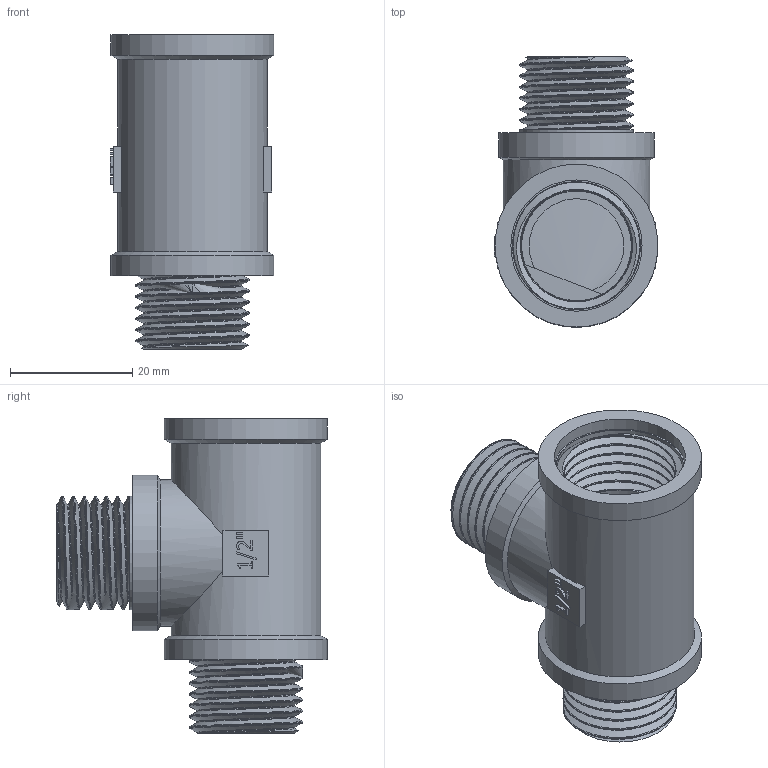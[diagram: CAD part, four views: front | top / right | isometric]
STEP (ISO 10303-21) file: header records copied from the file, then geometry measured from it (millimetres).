
FILE_DESCRIPTION(/* description */ (''),/* implementation_level */ '2;1');
FILE_NAME(/* name */ 'C:\Users\Doom\Desktop\Фадотех\Резьба\T21 18.03.2020\T21 18.03.2020.stp',/* time_stamp */ '2022-01-20T01:17:48+02:00',/* author */ ('Doom'),/* organization */ (''),/* preprocessor_version */ 'ST-DEVELOPER v18',/* originating_system */ 'Autodesk Inventor 2020',/* authorisation */ '');
FILE_SCHEMA (('AUTOMOTIVE_DESIGN { 1 0 10303 214 3 1 1 }'));
Length unit declared in the file: millimetre
Products named in the file (1): T21 18.03.2020
Bounding box: 26.85 x 44.35 x 51.5 mm (x, y, z)
Volume: 13417 mm3; surface area: 15955.3 mm2
Topology: 4 solids, 4 shells, 155 faces, 423 edges, 285 vertices
Faces by surface type: plane 74, cylinder 42, bspline 34, cone 5
Full cylindrical faces by diameter (mm): 15.5 x2, 15.94 x4, 18 x1, 18.254 x7, 18.63 x14, 20.944 x2, 21.5 x1, 24 x1, 24.5 x1, 25.5 x1, 26.7 x2
Entity records: 16195 total; most frequent: CARTESIAN_POINT 12521, ORIENTED_EDGE 834, DIRECTION 598, EDGE_CURVE 417, VERTEX_POINT 282, LINE 208, VECTOR 208, AXIS2_PLACEMENT_3D 195
